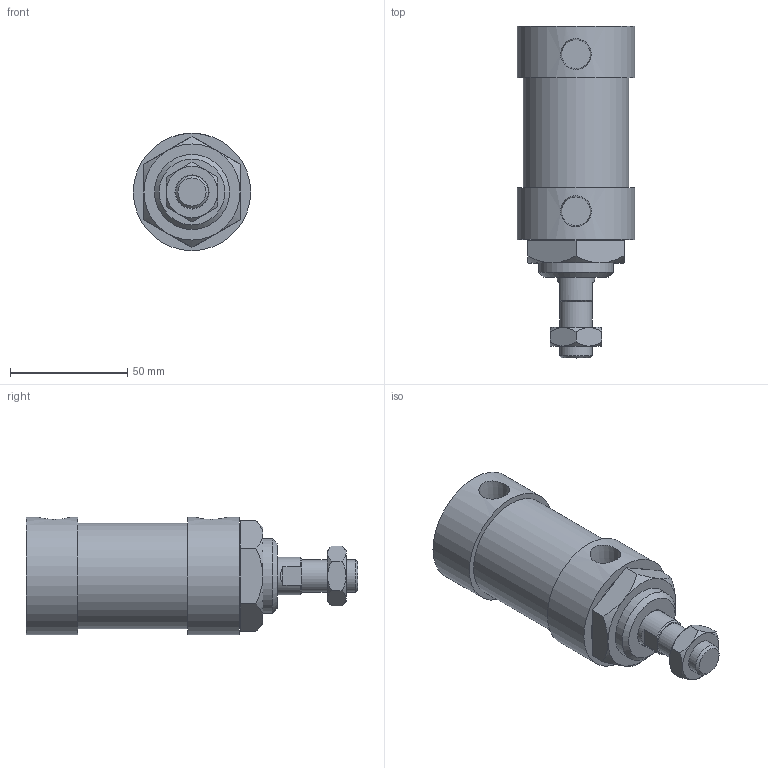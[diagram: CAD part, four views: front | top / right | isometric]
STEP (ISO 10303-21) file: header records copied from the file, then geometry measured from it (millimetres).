
FILE_DESCRIPTION(/* description */ ('Unknown'),/* implementation_level */ '2;1');
FILE_NAME(/* name */ 'WK40-FT',/* time_stamp */ '2026-07-17T16:34:13+08:00',/* author */ ('Unknown'),/* organization */ ('Unknown'),/* preprocessor_version */ 'ST-DEVELOPER v16.7',/* originating_system */ 'DEX',/* authorisation */ $);
FILE_SCHEMA (('CONFIG_CONTROL_DESIGN'));
Length unit declared in the file: millimetre
Products named in the file (7): WK40-FT; WK40_前; WK40_鋁; WK40_､ﾟｶbｬ｡_;m^XD}; M14-1.5P-8_螺; M32-2.0P-10_螺; WK40_FT
Assembly tree (6 placements, depth 2):
  WK40-FT
    WK40_前
    WK40_鋁
    WK40_､ﾟｶbｬ｡_;m^XD}
    M14-1.5P-8_螺
    M32-2.0P-10_螺
    WK40_FT
Bounding box: 50 x 141.5 x 50 mm (x, y, z)
Volume: 189644.4 mm3; surface area: 50089.6 mm2
Topology: 6 solids, 6 shells, 77 faces, 162 edges, 103 vertices
Faces by surface type: plane 42, cone 21, cylinder 14
Full cylindrical faces by diameter (mm): 12.5 x1, 14 x1, 16 x2, 30 x1, 32 x1, 39.5 x1, 40 x1, 41 x1, 42 x2, 45 x1, 50 x2
Entity records: 2598 total; most frequent: CARTESIAN_POINT 480, DIRECTION 318, ORIENTED_EDGE 244, AXIS2_PLACEMENT_3D 142, EDGE_CURVE 122, EDGE_LOOP 118, FACE_BOUND 118, VERTEX_POINT 90
